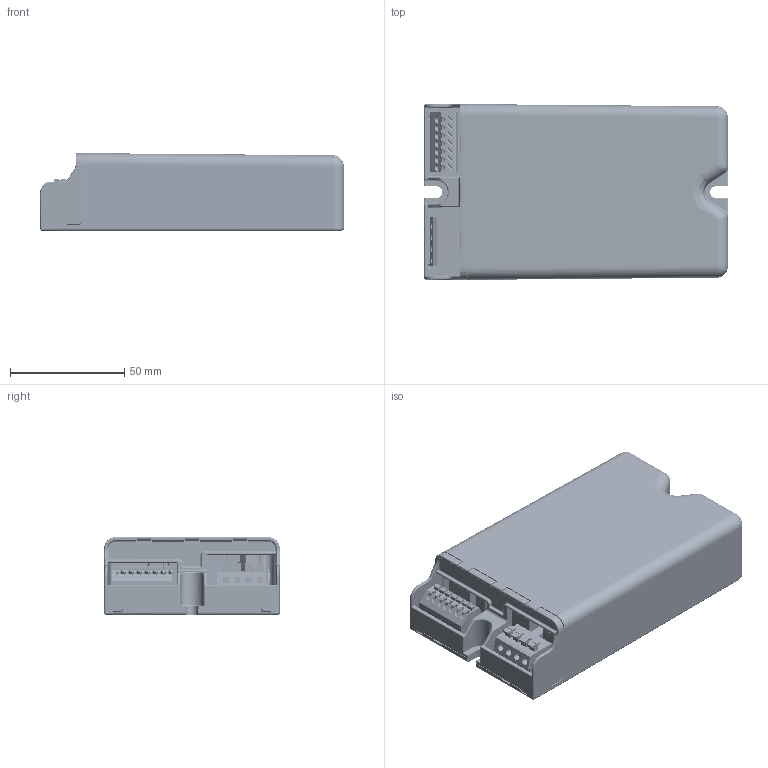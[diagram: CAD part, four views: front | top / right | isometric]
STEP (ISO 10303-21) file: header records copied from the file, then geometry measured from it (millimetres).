
FILE_DESCRIPTION((''),'2;1');
FILE_NAME('15014056_00','2020-07-23T15:21:47',('elon.guo'),(''),'CREO PARAMETRIC BY PTC INC, 2019164','CREO PARAMETRIC BY PTC INC, 2019164','');
FILE_SCHEMA(('CONFIG_CONTROL_DESIGN'));
Products named in the file (1): 15014056_00
Bounding box: 133.07 x 77 x 34.09 mm (x, y, z)
Volume: 64340.1 mm3; surface area: 129910.7 mm2
Topology: 13 solids, 990 shells, 13038 faces, 32971 edges, 20577 vertices
Faces by surface type: plane 5729, cylinder 4377, sphere 1243, extrusion 1073, torus 321, bspline 249, cone 38, revolution 8
Entity records: 430250 total; most frequent: CARTESIAN_POINT 134278, ORIENTED_EDGE 60724, DIRECTION 56822, EDGE_CURVE 32022, VERTEX_POINT 20578, AXIS2_PLACEMENT_3D 19305, VECTOR 18204, LINE 17131
